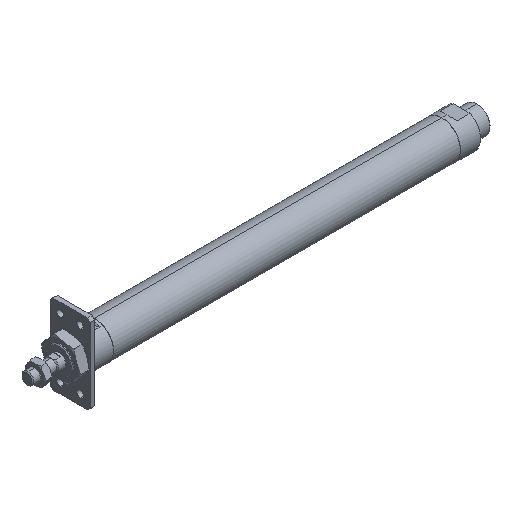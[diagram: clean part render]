
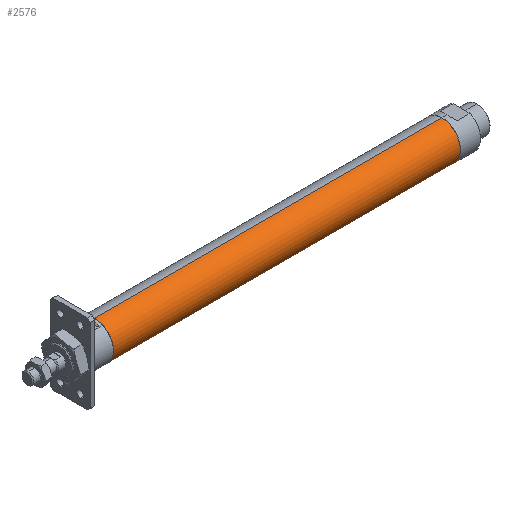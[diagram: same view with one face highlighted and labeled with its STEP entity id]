
A CAD part, isometric view. The second image highlights one B-rep face of the part: STEP entity #2576.
In plain terms, the highlighted cylindrical face has radius 18.8 mm (diameter 37.6 mm), a partial arc.
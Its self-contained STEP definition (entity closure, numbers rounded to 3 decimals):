
#86 = AXIS2_PLACEMENT_3D ( 'NONE', #2434, #180, #4010 ) ;
#157 = VERTEX_POINT ( 'NONE', #4202 ) ;
#158 = ORIENTED_EDGE ( 'NONE', *, *, #944, .F. ) ;
#164 = AXIS2_PLACEMENT_3D ( 'NONE', #3530, #3472, #1745 ) ;
#180 = DIRECTION ( 'NONE',  ( -1., 0., 0. ) ) ;
#840 = EDGE_CURVE ( 'NONE', #4238, #3666, #2209, .T. ) ;
#846 = VECTOR ( 'NONE', #3541, 1000. ) ;
#944 = EDGE_CURVE ( 'NONE', #4238, #157, #3257, .T. ) ;
#1148 = VECTOR ( 'NONE', #2025, 1000. ) ;
#1228 = EDGE_LOOP ( 'NONE', ( #158, #1699, #2784, #1882 ) ) ;
#1302 = CARTESIAN_POINT ( 'NONE',  ( 68., 0., 0. ) ) ;
#1406 = CARTESIAN_POINT ( 'NONE',  ( -1.784, 0., 18.8 ) ) ;
#1557 = CIRCLE ( 'NONE', #3644, 18.8 ) ;
#1696 = LINE ( 'NONE', #1406, #1148 ) ;
#1699 = ORIENTED_EDGE ( 'NONE', *, *, #840, .T. ) ;
#1726 = EDGE_CURVE ( 'NONE', #3666, #3140, #1696, .T. ) ;
#1745 = DIRECTION ( 'NONE',  ( 0., 0., 1. ) ) ;
#1882 = ORIENTED_EDGE ( 'NONE', *, *, #3333, .F. ) ;
#1923 = CARTESIAN_POINT ( 'NONE',  ( 417., 0., 18.8 ) ) ;
#2025 = DIRECTION ( 'NONE',  ( -1., 0., 0. ) ) ;
#2209 = CIRCLE ( 'NONE', #86, 18.8 ) ;
#2434 = CARTESIAN_POINT ( 'NONE',  ( 417., 0., 0. ) ) ;
#2576 = ADVANCED_FACE ( 'NONE', ( #3601 ), #4084, .T. ) ;
#2627 = CARTESIAN_POINT ( 'NONE',  ( 417., 0., -18.8 ) ) ;
#2784 = ORIENTED_EDGE ( 'NONE', *, *, #1726, .T. ) ;
#3140 = VERTEX_POINT ( 'NONE', #4101 ) ;
#3153 = DIRECTION ( 'NONE',  ( 0., 0., 1. ) ) ;
#3257 = LINE ( 'NONE', #3675, #846 ) ;
#3333 = EDGE_CURVE ( 'NONE', #157, #3140, #1557, .T. ) ;
#3472 = DIRECTION ( 'NONE',  ( -1., 0., 0. ) ) ;
#3530 = CARTESIAN_POINT ( 'NONE',  ( -1.784, 0., 0. ) ) ;
#3541 = DIRECTION ( 'NONE',  ( -1., 0., 0. ) ) ;
#3601 = FACE_OUTER_BOUND ( 'NONE', #1228, .T. ) ;
#3644 = AXIS2_PLACEMENT_3D ( 'NONE', #1302, #3903, #3153 ) ;
#3666 = VERTEX_POINT ( 'NONE', #1923 ) ;
#3675 = CARTESIAN_POINT ( 'NONE',  ( -1.784, 0., -18.8 ) ) ;
#3903 = DIRECTION ( 'NONE',  ( -1., 0., 0. ) ) ;
#4010 = DIRECTION ( 'NONE',  ( 0., 0., 1. ) ) ;
#4084 = CYLINDRICAL_SURFACE ( 'NONE', #164, 18.8 ) ;
#4101 = CARTESIAN_POINT ( 'NONE',  ( 68., 0., 18.8 ) ) ;
#4202 = CARTESIAN_POINT ( 'NONE',  ( 68., 0., -18.8 ) ) ;
#4238 = VERTEX_POINT ( 'NONE', #2627 ) ;
